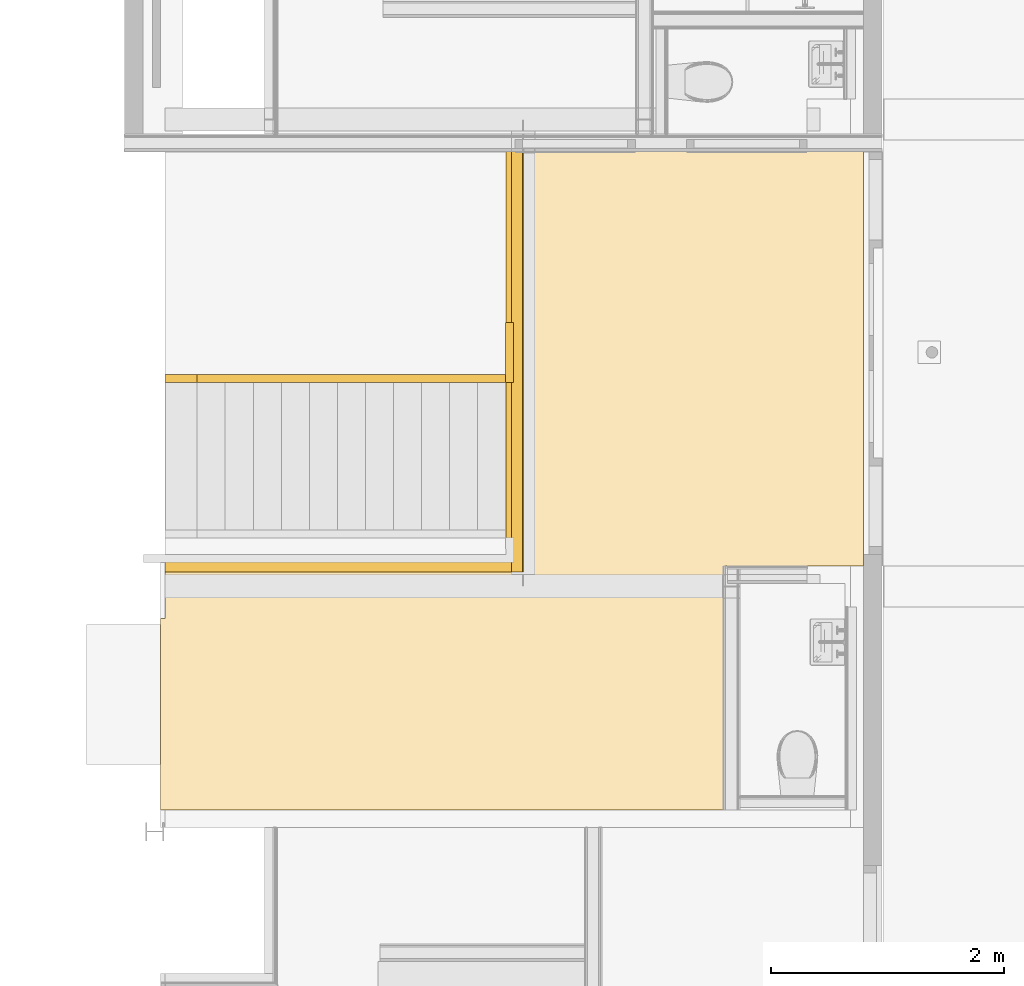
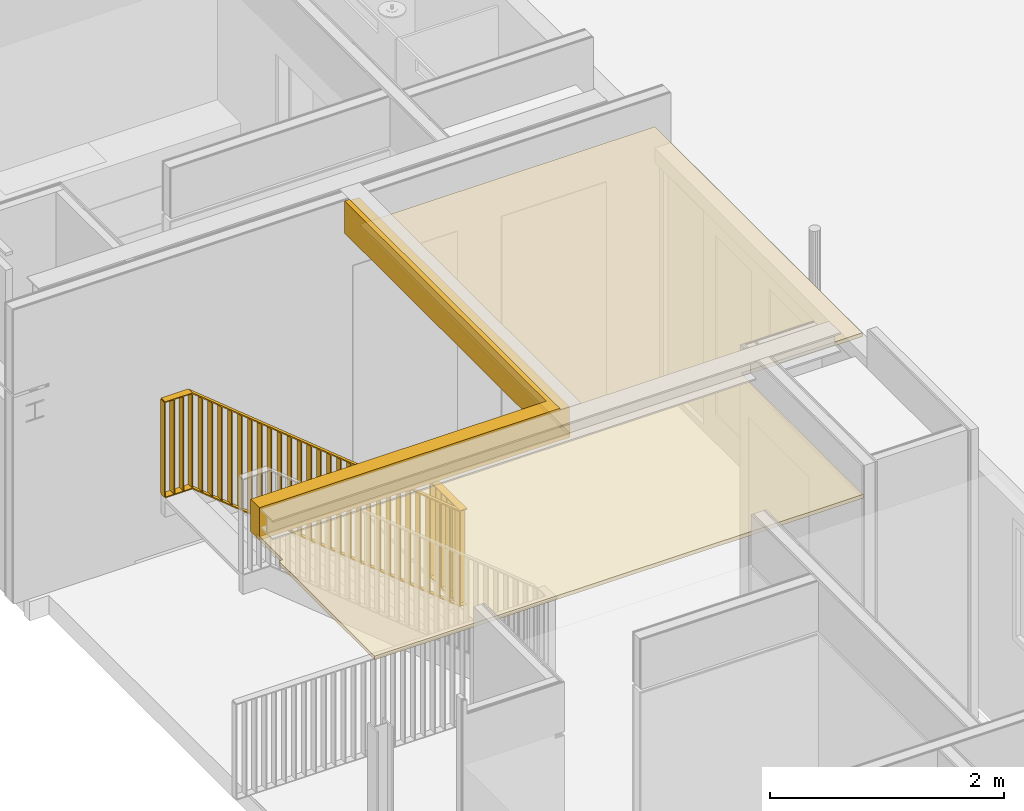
# One storey, part 24 of 35: 2 coverings, 1 railing.
"""IFC2X3 building model written with IfcOpenShell, lengths in millimetres."""

from ifc_helpers import new_model, entity, si_unit, converted_unit, derived_unit, money_unit, direction, frame, origin_with_axes, place, context, subcontext, project, spatial, faceted_brep, material, material_list, type_object, element, save


model = new_model("IFC2X3")

# Units and contexts
model_context = context("Model", 3, precision=0.01, world=origin_with_axes(), true_north=direction((0.0, 1.0)))
body_context = subcontext(model_context, "Body", "Model", "MODEL_VIEW")
ifc_project = project(units=[si_unit("LENGTHUNIT", "METRE", prefix="MILLI"), si_unit("AREAUNIT", "SQUARE_METRE"), si_unit("VOLUMEUNIT", "CUBIC_METRE"), converted_unit("PLANEANGLEUNIT", "DEGREE", entity("IfcPlaneAngleMeasure", 0.0174532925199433), si_unit("PLANEANGLEUNIT", "RADIAN"), dimensions=[0, 0, 0, 0, 0, 0, 0]), money_unit("EUR"), converted_unit("TIMEUNIT", "Year", entity("IfcTimeMeasure", 31557600.0), si_unit("TIMEUNIT", "SECOND"), dimensions=[0, 0, 1, 0, 0, 0, 0]), si_unit("MASSUNIT", "GRAM", prefix="KILO"), si_unit("THERMODYNAMICTEMPERATUREUNIT", "DEGREE_CELSIUS"), si_unit("LUMINOUSINTENSITYUNIT", "LUMEN"), si_unit("ENERGYUNIT", "JOULE", prefix="MEGA"), derived_unit("THERMALCONDUCTANCEUNIT", [(si_unit("POWERUNIT", "WATT"), 1), (si_unit("LENGTHUNIT", "METRE"), -1), (si_unit("THERMODYNAMICTEMPERATUREUNIT", "KELVIN"), -1)]), derived_unit("SPECIFICHEATCAPACITYUNIT", [(si_unit("ENERGYUNIT", "JOULE"), 1), (si_unit("MASSUNIT", "GRAM", prefix="KILO"), -1), (si_unit("THERMODYNAMICTEMPERATUREUNIT", "KELVIN"), -1)]), derived_unit("MASSDENSITYUNIT", [(si_unit("MASSUNIT", "GRAM", prefix="KILO"), 1), (si_unit("VOLUMEUNIT", "CUBIC_METRE"), -1)])], contexts=[model_context])

# Site, building, storey
site_placement = place(None, origin_with_axes())
site = spatial("IfcSite", under=ifc_project, at=site_placement, Name="<site naam>", CompositionType="ELEMENT")
building_placement = place(site_placement, origin_with_axes())
building = spatial("IfcBuilding", under=site, at=building_placement, Name="<Naam gebouw>", CompositionType="ELEMENT")
storey_placement = place(building_placement, frame((0.0, 0.0, 6345.0), z_axis=(0.0, 0.0, 1.0), x_axis=(1.0, 0.0, 0.0)))
storey = spatial("IfcBuildingStorey", under=building, at=storey_placement, Name="02 2e tussenverdieping", CompositionType="ELEMENT", Elevation=6345.0)

# Covering
ifc_material_1 = material(Name="systeemplafond 600*600")
covering_type_1 = type_object("IfcCoveringType", Name="PA-01c 40", PredefinedType="CEILING")
covering_1_placement = place(storey_placement, frame((52175.28548778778, 8175.071298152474, 2700.0), z_axis=(0.0, 0.0, 1.0), x_axis=(1.0, 0.0, 0.0)))
element("IfcCovering", 1, at=covering_1_placement, inside=storey, type_object=covering_type_1, material=ifc_material_1, Name="45_Vloer_PA-01c", PredefinedType="CEILING", context=body_context, shape_type="Brep", body=[
    faceted_brep([(-39.87681422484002, -2090.07150375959, 40.00000000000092), (4786.997353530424, -2090.071239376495, 40.00000000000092), (4786.997353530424, -0.07132761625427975, 40.00000000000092), (4882.497392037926, -0.07132761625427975, 40.00000000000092), (5982.497491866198, -0.07132761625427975, 40.00000000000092), (5982.497491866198, 3549.928741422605, 40.00000000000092), (3069.319793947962, 3549.928741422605, 40.00000000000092), (3069.319793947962, -50.08520725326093, 40.00000000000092), (0.1430896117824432, -50.08520725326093, 40.00000000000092), (0.0, 0.0, 40.00000000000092), (-0.2854877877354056, -450.0712981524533, 40.00000000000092), (-39.27123645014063, -450.0569026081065, 40.00000000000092), (-39.87681422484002, -2090.07150375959, 0.0), (4786.997353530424, -2090.071239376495, 0.0), (4786.997353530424, -0.07132761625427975, 0.0), (4882.497392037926, -0.07132761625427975, 0.0), (5982.497491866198, -0.07132761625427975, 0.0), (5982.497491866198, 3549.928741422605, 0.0), (3069.319793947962, 3549.928741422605, 0.0), (3069.319793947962, -50.08520725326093, 0.0), (0.1430896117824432, -50.08520725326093, 0.0), (0.0, 0.0, 0.0), (-0.2854877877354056, -450.0712981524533, 0.0), (-39.27123645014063, -450.0569026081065, 0.0)], [[[0, 1, 2, 3, 4, 5, 6, 7, 8, 9, 10, 11]], [[12, 13, 1, 0]], [[14, 2, 1, 13]], [[15, 3, 2, 14]], [[4, 3, 15, 16]], [[5, 4, 16, 17]], [[6, 5, 17, 18]], [[7, 6, 18, 19]], [[8, 7, 19, 20]], [[9, 8, 20, 21]], [[10, 9, 21, 22]], [[11, 10, 22, 23]], [[0, 11, 23, 12]], [[15, 14, 13, 12, 23, 22, 21, 20, 19, 18, 17, 16]]]),
])

# Railing
ifc_material_2 = material(Name="staal balustrade")
ifc_material_list = material_list([ifc_material_2, ifc_material_2, ifc_material_2, ifc_material_2, ifc_material_2, ifc_material_2, ifc_material_2, ifc_material_2, ifc_material_2, ifc_material_2, ifc_material_2, ifc_material_2, ifc_material_2, ifc_material_2, ifc_material_2, ifc_material_2, ifc_material_2, ifc_material_2, ifc_material_2, ifc_material_2, ifc_material_2, ifc_material_2, ifc_material_2, ifc_material_2, ifc_material_2, ifc_material_2, ifc_material_2, ifc_material_2, ifc_material_2, ifc_material_2, ifc_material_2, ifc_material_2, ifc_material_2, ifc_material_2, ifc_material_2, ifc_material_2, ifc_material_2, ifc_material_2, ifc_material_2, ifc_material_2, ifc_material_2, ifc_material_2, ifc_material_2, ifc_material_2, ifc_material_2])
railing_type = type_object("IfcRailingType", Name="Railing Type", PredefinedType="NOTDEFINED")
railing_placement = place(storey_placement, frame((54815.00000000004, 9815.000000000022, -8.253160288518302e-05), z_axis=(0.0, 0.0, 1.0), x_axis=(1.0, 0.0, 0.0)))
element("IfcRailing", 2, at=railing_placement, inside=storey, type_object=railing_type, material=ifc_material_list, Name="34_Reling_", PredefinedType="NOTDEFINED", context=body_context, shape_type="Brep", body=[
    faceted_brep([(274.601120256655, 434.9999999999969, 14.99999999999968), (344.6011202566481, 434.9999999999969, 14.99999999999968), (344.6011202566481, 434.9999999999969, 994.9999999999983), (274.601120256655, 434.9999999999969, 994.9999999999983), (274.601120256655, 444.9999999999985, 14.99999999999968), (344.6011202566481, 444.9999999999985, 14.99999999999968), (344.6011202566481, 444.9999999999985, 994.9999999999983), (274.601120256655, 444.9999999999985, 994.9999999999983)], [[[0, 1, 2, 3]], [[0, 4, 5, 1]], [[1, 5, 6, 2]], [[3, 2, 6, 7]], [[4, 0, 3, 7]], [[5, 4, 7, 6]]]),
    faceted_brep([(274.601120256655, -40.00000000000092, 14.99999999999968), (344.6011202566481, -40.00000000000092, 14.99999999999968), (344.6011202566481, -40.00000000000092, 994.9999999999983), (274.601120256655, -40.00000000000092, 994.9999999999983), (274.601120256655, -29.99999999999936, 14.99999999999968), (344.6011202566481, -29.99999999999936, 14.99999999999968), (344.6011202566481, -29.99999999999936, 994.9999999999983), (274.601120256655, -29.99999999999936, 994.9999999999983)], [[[0, 1, 2, 3]], [[0, 4, 5, 1]], [[1, 5, 6, 2]], [[3, 2, 6, 7]], [[4, 0, 3, 7]], [[5, 4, 7, 6]]]),
    faceted_brep([(269.6011202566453, 0.0, 14.99999999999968), (269.6011202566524, -70.00000000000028, 14.99999999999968), (269.6011202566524, -70.00000000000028, 995.0000000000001), (269.6011202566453, 0.0, 995.0000000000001), (279.6011202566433, 0.0, 14.99999999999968), (279.6011202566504, -70.00000000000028, 14.99999999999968), (279.6011202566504, -70.00000000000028, 995.0000000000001), (279.6011202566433, 0.0, 995.0000000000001)], [[[0, 1, 2, 3]], [[0, 4, 5, 1]], [[1, 5, 6, 2]], [[3, 2, 6, 7]], [[4, 0, 3, 7]], [[5, 4, 7, 6]]]),
    faceted_brep([(-2370.398879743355, 0.0, 2170.000000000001), (-2370.398879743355, -70.00000000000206, 2170.000000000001), (-2370.398879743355, -70.00000000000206, 3150.000000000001), (-2370.398879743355, 0.0, 3150.000000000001), (-2360.39887974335, 0.0, 2170.000000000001), (-2360.39887974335, -70.00000000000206, 2170.000000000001), (-2360.39887974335, -70.00000000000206, 3150.000000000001), (-2360.39887974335, 0.0, 3150.000000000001)], [[[0, 1, 2, 3]], [[0, 4, 5, 1]], [[1, 5, 6, 2]], [[3, 2, 6, 7]], [[4, 0, 3, 7]], [[5, 4, 7, 6]]]),
    faceted_brep([(-2640.398879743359, 0.0, 2170.000000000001), (-2640.398879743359, -70.00000000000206, 2170.000000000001), (-2640.398879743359, -70.00000000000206, 3150.0), (-2640.398879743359, 0.0, 3150.0), (-2630.398879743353, 0.0, 2170.000000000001), (-2630.398879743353, -70.00000000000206, 2170.000000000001), (-2630.398879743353, -70.00000000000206, 3150.0), (-2630.398879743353, 0.0, 3150.0)], [[[0, 1, 2, 3]], [[0, 4, 5, 1]], [[1, 5, 6, 2]], [[3, 2, 6, 7]], [[4, 0, 3, 7]], [[5, 4, 7, 6]]]),
    faceted_brep([(274.601120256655, 439.9999999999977, 1005.0), (274.601120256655, 439.9999999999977, 995.0000000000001), (274.601120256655, 0.0, 995.0000000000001), (274.601120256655, 0.0, 1005.0), (344.6011202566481, 439.9999999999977, 1005.0), (344.6011202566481, 439.9999999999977, 995.0000000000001), (344.6011202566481, -69.99999999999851, 995.0000000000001), (344.6011202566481, -69.99999999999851, 1005.0)], [[[0, 1, 2, 3]], [[0, 4, 5, 1]], [[1, 5, 6, 2]], [[3, 2, 6, 7]], [[4, 0, 3, 7]], [[5, 4, 7, 6]]]),
    faceted_brep([(274.601120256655, 439.9999999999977, 9.999999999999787), (274.601120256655, 439.9999999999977, 0.0), (274.601120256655, 0.0, 0.0), (274.601120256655, 0.0, 9.999999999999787), (344.6011202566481, 439.9999999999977, 9.999999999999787), (344.6011202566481, 439.9999999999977, 0.0), (344.6011202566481, -69.99999999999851, 0.0), (344.6011202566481, -69.99999999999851, 9.999999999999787)], [[[0, 1, 2, 3]], [[0, 4, 5, 1]], [[1, 5, 6, 2]], [[3, 2, 6, 7]], [[4, 0, 3, 7]], [[5, 4, 7, 6]]]),
    faceted_brep([(274.601120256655, 339.9999999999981, 14.99999999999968), (344.6011202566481, 339.9999999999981, 14.99999999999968), (344.6011202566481, 339.9999999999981, 995.0000000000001), (274.601120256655, 339.9999999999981, 995.0000000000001), (274.601120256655, 349.9999999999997, 14.99999999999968), (344.6011202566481, 349.9999999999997, 14.99999999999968), (344.6011202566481, 349.9999999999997, 995.0000000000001), (274.601120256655, 349.9999999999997, 995.0000000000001)], [[[0, 1, 2, 3]], [[0, 4, 5, 1]], [[1, 5, 6, 2]], [[3, 2, 6, 7]], [[4, 0, 3, 7]], [[5, 4, 7, 6]]]),
    faceted_brep([(274.601120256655, 244.9999999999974, 14.99999999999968), (344.6011202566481, 244.9999999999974, 14.99999999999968), (344.6011202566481, 244.9999999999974, 995.0000000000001), (274.601120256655, 244.9999999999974, 995.0000000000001), (274.601120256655, 254.999999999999, 14.99999999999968), (344.6011202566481, 254.999999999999, 14.99999999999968), (344.6011202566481, 254.999999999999, 995.0000000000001), (274.601120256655, 254.999999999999, 995.0000000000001)], [[[0, 1, 2, 3]], [[0, 4, 5, 1]], [[1, 5, 6, 2]], [[3, 2, 6, 7]], [[4, 0, 3, 7]], [[5, 4, 7, 6]]]),
    faceted_brep([(274.601120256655, 149.9999999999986, 14.99999999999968), (344.6011202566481, 149.9999999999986, 14.99999999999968), (344.6011202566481, 149.9999999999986, 995.0000000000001), (274.601120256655, 149.9999999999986, 995.0000000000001), (274.601120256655, 160.0000000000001, 14.99999999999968), (344.6011202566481, 160.0000000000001, 14.99999999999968), (344.6011202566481, 160.0000000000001, 995.0000000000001), (274.601120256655, 160.0000000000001, 995.0000000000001)], [[[0, 1, 2, 3]], [[0, 4, 5, 1]], [[1, 5, 6, 2]], [[3, 2, 6, 7]], [[4, 0, 3, 7]], [[5, 4, 7, 6]]]),
    faceted_brep([(274.601120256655, 54.99999999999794, 14.99999999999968), (344.6011202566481, 54.99999999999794, 14.99999999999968), (344.6011202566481, 54.99999999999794, 995.0000000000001), (274.601120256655, 54.99999999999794, 995.0000000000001), (274.601120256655, 64.9999999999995, 14.99999999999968), (344.6011202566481, 64.9999999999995, 14.99999999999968), (344.6011202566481, 64.9999999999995, 995.0000000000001), (274.601120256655, 64.9999999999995, 995.0000000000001)], [[[0, 1, 2, 3]], [[0, 4, 5, 1]], [[1, 5, 6, 2]], [[3, 2, 6, 7]], [[4, 0, 3, 7]], [[5, 4, 7, 6]]]),
    faceted_brep([(271.037886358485, 0.0, 995.0000000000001), (271.037886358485, -70.00000000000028, 995.0000000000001), (274.6011202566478, -70.00000000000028, 1005.0), (274.601120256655, 0.0, 1005.0), (274.601120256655, 0.0, 995.0000000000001), (344.6011202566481, -69.99999999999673, 995.0000000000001), (344.6011202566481, -69.99999999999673, 1005.0)], [[[0, 1, 2, 3]], [[1, 0, 4, 5]], [[2, 1, 5, 6]], [[3, 2, 6]], [[0, 3, 4]], [[5, 4, 3, 6]]]),
    faceted_brep([(274.6011202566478, -70.00000000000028, 0.0), (274.601120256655, 0.0, 0.0), (344.6011202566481, -69.99999999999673, 0.0), (274.6011202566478, -70.00000000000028, 9.999999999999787), (274.601120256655, 0.0, 9.999999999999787), (344.6011202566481, -69.99999999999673, 9.999999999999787)], [[[0, 1, 2]], [[1, 0, 3, 4]], [[1, 4, 5, 2]], [[3, 0, 2, 5]], [[5, 4, 3]]]),
    faceted_brep([(274.6011202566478, 0.0, 1005.0), (271.037886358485, 0.0, 995.0000000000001), (-2368.962113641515, 0.0, 3150.0), (-2365.398879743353, 0.0, 3159.999999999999), (274.6011202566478, -70.00000000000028, 1005.0), (271.037886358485, -70.00000000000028, 995.0000000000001), (-2368.962113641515, -70.00000000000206, 3150.0), (-2365.398879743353, -70.00000000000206, 3159.999999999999)], [[[0, 1, 2, 3]], [[0, 4, 5, 1]], [[1, 5, 6, 2]], [[3, 2, 6, 7]], [[4, 0, 3, 7]], [[5, 4, 7, 6]]]),
    faceted_brep([(274.6011202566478, 0.0, 11.45431232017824), (274.6011202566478, 0.0, -1.454312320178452), (-2365.398879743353, 0.0, 2153.545687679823), (-2365.398879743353, 0.0, 2166.454312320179), (274.6011202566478, -70.00000000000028, 11.45431232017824), (274.6011202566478, -70.00000000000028, -1.454312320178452), (-2365.398879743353, -70.00000000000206, 2153.545687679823), (-2365.398879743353, -70.00000000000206, 2166.454312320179)], [[[0, 1, 2, 3]], [[0, 4, 5, 1]], [[1, 5, 6, 2]], [[3, 2, 6, 7]], [[4, 0, 3, 7]], [[5, 4, 7, 6]]]),
    faceted_brep([(171.8233424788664, 0.0, 98.89625420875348), (171.8233424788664, -70.00000000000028, 98.89625420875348), (171.8233424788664, -70.00000000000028, 1078.896254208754), (171.8233424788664, 0.0, 1078.896254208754), (181.8233424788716, 0.0, 90.733375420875), (181.8233424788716, -70.00000000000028, 90.733375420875), (181.8233424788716, -70.00000000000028, 1070.733375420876), (181.8233424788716, 0.0, 1070.733375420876)], [[[0, 1, 2, 3]], [[0, 4, 5, 1]], [[1, 5, 6, 2]], [[3, 2, 6, 7]], [[4, 0, 3, 7]], [[5, 4, 7, 6]]]),
    faceted_brep([(74.04556470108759, 0.0, 178.7110690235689), (74.04556470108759, -70.00000000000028, 178.7110690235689), (74.04556470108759, -70.00000000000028, 1158.711069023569), (74.04556470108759, 0.0, 1158.711069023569), (84.0455647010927, 0.0, 170.5481902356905), (84.0455647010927, -70.00000000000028, 170.5481902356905), (84.0455647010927, -70.00000000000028, 1150.548190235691), (84.0455647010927, 0.0, 1150.548190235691)], [[[0, 1, 2, 3]], [[0, 4, 5, 1]], [[1, 5, 6, 2]], [[3, 2, 6, 7]], [[4, 0, 3, 7]], [[5, 4, 7, 6]]]),
    faceted_brep([(-23.73221307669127, 0.0, 258.5258838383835), (-23.73221307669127, -70.00000000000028, 258.5258838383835), (-23.73221307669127, -70.00000000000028, 1238.525883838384), (-23.73221307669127, 0.0, 1238.525883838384), (-13.73221307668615, 0.0, 250.363005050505), (-13.73221307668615, -70.00000000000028, 250.363005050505), (-13.73221307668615, -70.00000000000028, 1230.363005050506), (-13.73221307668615, 0.0, 1230.363005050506)], [[[0, 1, 2, 3]], [[0, 4, 5, 1]], [[1, 5, 6, 2]], [[3, 2, 6, 7]], [[4, 0, 3, 7]], [[5, 4, 7, 6]]]),
    faceted_brep([(-121.509990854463, 0.0, 338.340698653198), (-121.509990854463, -70.00000000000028, 338.340698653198), (-121.509990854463, -70.00000000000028, 1318.340698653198), (-121.509990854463, 0.0, 1318.340698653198), (-111.5099908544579, 0.0, 330.1778198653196), (-111.5099908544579, -70.00000000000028, 330.1778198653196), (-111.5099908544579, -70.00000000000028, 1310.17781986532), (-111.5099908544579, 0.0, 1310.17781986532)], [[[0, 1, 2, 3]], [[0, 4, 5, 1]], [[1, 5, 6, 2]], [[3, 2, 6, 7]], [[4, 0, 3, 7]], [[5, 4, 7, 6]]]),
    faceted_brep([(-219.2877686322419, 0.0, 418.1555134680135), (-219.2877686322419, -70.00000000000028, 418.1555134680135), (-219.2877686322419, -70.00000000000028, 1398.155513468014), (-219.2877686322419, 0.0, 1398.155513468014), (-209.2877686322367, 0.0, 409.992634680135), (-209.2877686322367, -70.00000000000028, 409.992634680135), (-209.2877686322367, -70.00000000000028, 1389.992634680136), (-209.2877686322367, 0.0, 1389.992634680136)], [[[0, 1, 2, 3]], [[0, 4, 5, 1]], [[1, 5, 6, 2]], [[3, 2, 6, 7]], [[4, 0, 3, 7]], [[5, 4, 7, 6]]]),
    faceted_brep([(-317.0655464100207, 0.0, 497.9703282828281), (-317.0655464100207, -70.00000000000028, 497.9703282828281), (-317.0655464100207, -70.00000000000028, 1477.970328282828), (-317.0655464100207, 0.0, 1477.970328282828), (-307.0655464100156, 0.0, 489.8074494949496), (-307.0655464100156, -70.00000000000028, 489.8074494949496), (-307.0655464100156, -70.00000000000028, 1469.80744949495), (-307.0655464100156, 0.0, 1469.80744949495)], [[[0, 1, 2, 3]], [[0, 4, 5, 1]], [[1, 5, 6, 2]], [[3, 2, 6, 7]], [[4, 0, 3, 7]], [[5, 4, 7, 6]]]),
    faceted_brep([(-414.8433241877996, 0.0, 577.7851430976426), (-414.8433241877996, -70.00000000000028, 577.7851430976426), (-414.8433241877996, -70.00000000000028, 1557.785143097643), (-414.8433241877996, 0.0, 1557.785143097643), (-404.8433241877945, 0.0, 569.6222643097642), (-404.8433241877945, -70.00000000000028, 569.6222643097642), (-404.8433241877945, -70.00000000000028, 1549.622264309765), (-404.8433241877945, 0.0, 1549.622264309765)], [[[0, 1, 2, 3]], [[0, 4, 5, 1]], [[1, 5, 6, 2]], [[3, 2, 6, 7]], [[4, 0, 3, 7]], [[5, 4, 7, 6]]]),
    faceted_brep([(-512.6211019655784, 0.0, 657.5999579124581), (-512.6211019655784, -70.00000000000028, 657.5999579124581), (-512.6211019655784, -70.00000000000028, 1637.599957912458), (-512.6211019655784, 0.0, 1637.599957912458), (-502.6211019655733, 0.0, 649.4370791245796), (-502.6211019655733, -70.00000000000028, 649.4370791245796), (-502.6211019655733, -70.00000000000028, 1629.43707912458), (-502.6211019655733, 0.0, 1629.43707912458)], [[[0, 1, 2, 3]], [[0, 4, 5, 1]], [[1, 5, 6, 2]], [[3, 2, 6, 7]], [[4, 0, 3, 7]], [[5, 4, 7, 6]]]),
    faceted_brep([(-610.3988797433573, 0.0, 737.4147727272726), (-610.3988797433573, -70.00000000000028, 737.4147727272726), (-610.3988797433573, -70.00000000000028, 1717.414772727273), (-610.3988797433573, 0.0, 1717.414772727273), (-600.3988797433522, 0.0, 729.2518939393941), (-600.3988797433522, -70.00000000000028, 729.2518939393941), (-600.3988797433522, -70.00000000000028, 1709.251893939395), (-600.3988797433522, 0.0, 1709.251893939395)], [[[0, 1, 2, 3]], [[0, 4, 5, 1]], [[1, 5, 6, 2]], [[3, 2, 6, 7]], [[4, 0, 3, 7]], [[5, 4, 7, 6]]]),
    faceted_brep([(-708.1766575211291, 0.0, 817.2295875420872), (-708.1766575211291, -70.00000000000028, 817.2295875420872), (-708.1766575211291, -70.00000000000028, 1797.229587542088), (-708.1766575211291, 0.0, 1797.229587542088), (-698.1766575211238, 0.0, 809.0667087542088), (-698.1766575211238, -70.00000000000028, 809.0667087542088), (-698.1766575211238, -70.00000000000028, 1789.066708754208), (-698.1766575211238, 0.0, 1789.066708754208)], [[[0, 1, 2, 3]], [[0, 4, 5, 1]], [[1, 5, 6, 2]], [[3, 2, 6, 7]], [[4, 0, 3, 7]], [[5, 4, 7, 6]]]),
    faceted_brep([(-805.9544352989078, 0.0, 897.0444023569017), (-805.9544352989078, -70.00000000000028, 897.0444023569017), (-805.9544352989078, -70.00000000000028, 1877.044402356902), (-805.9544352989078, 0.0, 1877.044402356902), (-795.9544352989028, 0.0, 888.8815235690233), (-795.9544352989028, -70.00000000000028, 888.8815235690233), (-795.9544352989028, -70.00000000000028, 1868.881523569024), (-795.9544352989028, 0.0, 1868.881523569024)], [[[0, 1, 2, 3]], [[0, 4, 5, 1]], [[1, 5, 6, 2]], [[3, 2, 6, 7]], [[4, 0, 3, 7]], [[5, 4, 7, 6]]]),
    faceted_brep([(-903.7322130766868, 0.0, 976.8592171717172), (-903.7322130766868, -70.00000000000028, 976.8592171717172), (-903.7322130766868, -70.00000000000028, 1956.859217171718), (-903.7322130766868, 0.0, 1956.859217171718), (-893.7322130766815, 0.0, 968.6963383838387), (-893.7322130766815, -70.00000000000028, 968.6963383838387), (-893.7322130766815, -70.00000000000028, 1948.696338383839), (-893.7322130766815, 0.0, 1948.696338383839)], [[[0, 1, 2, 3]], [[0, 4, 5, 1]], [[1, 5, 6, 2]], [[3, 2, 6, 7]], [[4, 0, 3, 7]], [[5, 4, 7, 6]]]),
    faceted_brep([(-1001.509990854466, 0.0, 1056.674031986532), (-1001.509990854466, -70.00000000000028, 1056.674031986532), (-1001.509990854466, -70.00000000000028, 2036.674031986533), (-1001.509990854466, 0.0, 2036.674031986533), (-991.5099908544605, 0.0, 1048.511153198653), (-991.5099908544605, -70.00000000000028, 1048.511153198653), (-991.5099908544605, -70.00000000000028, 2028.511153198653), (-991.5099908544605, 0.0, 2028.511153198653)], [[[0, 1, 2, 3]], [[0, 4, 5, 1]], [[1, 5, 6, 2]], [[3, 2, 6, 7]], [[4, 0, 3, 7]], [[5, 4, 7, 6]]]),
    faceted_brep([(-1099.287768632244, 0.0, 1136.488846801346), (-1099.287768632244, -70.00000000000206, 1136.488846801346), (-1099.287768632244, -70.00000000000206, 2116.488846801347), (-1099.287768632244, 0.0, 2116.488846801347), (-1089.287768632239, 0.0, 1128.325968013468), (-1089.287768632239, -70.00000000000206, 1128.325968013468), (-1089.287768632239, -70.00000000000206, 2108.325968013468), (-1089.287768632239, 0.0, 2108.325968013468)], [[[0, 1, 2, 3]], [[0, 4, 5, 1]], [[1, 5, 6, 2]], [[3, 2, 6, 7]], [[4, 0, 3, 7]], [[5, 4, 7, 6]]]),
    faceted_brep([(-1197.065546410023, 0.0, 1216.303661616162), (-1197.065546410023, -70.00000000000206, 1216.303661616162), (-1197.065546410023, -70.00000000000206, 2196.303661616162), (-1197.065546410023, 0.0, 2196.303661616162), (-1187.065546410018, 0.0, 1208.140782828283), (-1187.065546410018, -70.00000000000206, 1208.140782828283), (-1187.065546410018, -70.00000000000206, 2188.140782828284), (-1187.065546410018, 0.0, 2188.140782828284)], [[[0, 1, 2, 3]], [[0, 4, 5, 1]], [[1, 5, 6, 2]], [[3, 2, 6, 7]], [[4, 0, 3, 7]], [[5, 4, 7, 6]]]),
    faceted_brep([(-1294.843324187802, 0.0, 1296.118476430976), (-1294.843324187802, -70.00000000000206, 1296.118476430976), (-1294.843324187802, -70.00000000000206, 2276.118476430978), (-1294.843324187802, 0.0, 2276.118476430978), (-1284.843324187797, 0.0, 1287.955597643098), (-1284.843324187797, -70.00000000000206, 1287.955597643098), (-1284.843324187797, -70.00000000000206, 2267.955597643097), (-1284.843324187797, 0.0, 2267.955597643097)], [[[0, 1, 2, 3]], [[0, 4, 5, 1]], [[1, 5, 6, 2]], [[3, 2, 6, 7]], [[4, 0, 3, 7]], [[5, 4, 7, 6]]]),
    faceted_brep([(-1392.621101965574, 0.0, 1375.933291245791), (-1392.621101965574, -70.00000000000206, 1375.933291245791), (-1392.621101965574, -70.00000000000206, 2355.933291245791), (-1392.621101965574, 0.0, 2355.933291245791), (-1382.621101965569, 0.0, 1367.770412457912), (-1382.621101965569, -70.00000000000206, 1367.770412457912), (-1382.621101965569, -70.00000000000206, 2347.770412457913), (-1382.621101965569, 0.0, 2347.770412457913)], [[[0, 1, 2, 3]], [[0, 4, 5, 1]], [[1, 5, 6, 2]], [[3, 2, 6, 7]], [[4, 0, 3, 7]], [[5, 4, 7, 6]]]),
    faceted_brep([(-1490.398879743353, 0.0, 1455.748106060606), (-1490.398879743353, -70.00000000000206, 1455.748106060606), (-1490.398879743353, -70.00000000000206, 2435.748106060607), (-1490.398879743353, 0.0, 2435.748106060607), (-1480.398879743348, 0.0, 1447.585227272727), (-1480.398879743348, -70.00000000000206, 1447.585227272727), (-1480.398879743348, -70.00000000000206, 2427.585227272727), (-1480.398879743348, 0.0, 2427.585227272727)], [[[0, 1, 2, 3]], [[0, 4, 5, 1]], [[1, 5, 6, 2]], [[3, 2, 6, 7]], [[4, 0, 3, 7]], [[5, 4, 7, 6]]]),
    faceted_brep([(-1588.176657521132, 0.0, 1535.562920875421), (-1588.176657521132, -70.00000000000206, 1535.562920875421), (-1588.176657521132, -70.00000000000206, 2515.562920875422), (-1588.176657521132, 0.0, 2515.562920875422), (-1578.176657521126, 0.0, 1527.400042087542), (-1578.176657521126, -70.00000000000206, 1527.400042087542), (-1578.176657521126, -70.00000000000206, 2507.400042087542), (-1578.176657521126, 0.0, 2507.400042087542)], [[[0, 1, 2, 3]], [[0, 4, 5, 1]], [[1, 5, 6, 2]], [[3, 2, 6, 7]], [[4, 0, 3, 7]], [[5, 4, 7, 6]]]),
    faceted_brep([(-1685.954435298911, 0.0, 1615.377735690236), (-1685.954435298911, -70.00000000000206, 1615.377735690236), (-1685.954435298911, -70.00000000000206, 2595.377735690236), (-1685.954435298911, 0.0, 2595.377735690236), (-1675.954435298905, 0.0, 1607.214856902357), (-1675.954435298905, -70.00000000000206, 1607.214856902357), (-1675.954435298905, -70.00000000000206, 2587.214856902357), (-1675.954435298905, 0.0, 2587.214856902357)], [[[0, 1, 2, 3]], [[0, 4, 5, 1]], [[1, 5, 6, 2]], [[3, 2, 6, 7]], [[4, 0, 3, 7]], [[5, 4, 7, 6]]]),
    faceted_brep([(-1783.732213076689, 0.0, 1695.192550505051), (-1783.732213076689, -70.00000000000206, 1695.192550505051), (-1783.732213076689, -70.00000000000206, 2675.192550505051), (-1783.732213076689, 0.0, 2675.192550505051), (-1773.732213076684, 0.0, 1687.029671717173), (-1773.732213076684, -70.00000000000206, 1687.029671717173), (-1773.732213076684, -70.00000000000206, 2667.029671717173), (-1773.732213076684, 0.0, 2667.029671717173)], [[[0, 1, 2, 3]], [[0, 4, 5, 1]], [[1, 5, 6, 2]], [[3, 2, 6, 7]], [[4, 0, 3, 7]], [[5, 4, 7, 6]]]),
    faceted_brep([(-1881.509990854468, 0.0, 1775.007365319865), (-1881.509990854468, -70.00000000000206, 1775.007365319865), (-1881.509990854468, -70.00000000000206, 2755.007365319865), (-1881.509990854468, 0.0, 2755.007365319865), (-1871.509990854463, 0.0, 1766.844486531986), (-1871.509990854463, -70.00000000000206, 1766.844486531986), (-1871.509990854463, -70.00000000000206, 2746.844486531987), (-1871.509990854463, 0.0, 2746.844486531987)], [[[0, 1, 2, 3]], [[0, 4, 5, 1]], [[1, 5, 6, 2]], [[3, 2, 6, 7]], [[4, 0, 3, 7]], [[5, 4, 7, 6]]]),
    faceted_brep([(-1979.287768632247, 0.0, 1854.82218013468), (-1979.287768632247, -70.00000000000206, 1854.82218013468), (-1979.287768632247, -70.00000000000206, 2834.82218013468), (-1979.287768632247, 0.0, 2834.82218013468), (-1969.287768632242, 0.0, 1846.659301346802), (-1969.287768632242, -70.00000000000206, 1846.659301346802), (-1969.287768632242, -70.00000000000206, 2826.659301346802), (-1969.287768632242, 0.0, 2826.659301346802)], [[[0, 1, 2, 3]], [[0, 4, 5, 1]], [[1, 5, 6, 2]], [[3, 2, 6, 7]], [[4, 0, 3, 7]], [[5, 4, 7, 6]]]),
    faceted_brep([(-2077.065546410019, 0.0, 1934.636994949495), (-2077.065546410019, -70.00000000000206, 1934.636994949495), (-2077.065546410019, -70.00000000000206, 2914.636994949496), (-2077.065546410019, 0.0, 2914.636994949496), (-2067.065546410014, 0.0, 1926.474116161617), (-2067.065546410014, -70.00000000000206, 1926.474116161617), (-2067.065546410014, -70.00000000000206, 2906.474116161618), (-2067.065546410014, 0.0, 2906.474116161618)], [[[0, 1, 2, 3]], [[0, 4, 5, 1]], [[1, 5, 6, 2]], [[3, 2, 6, 7]], [[4, 0, 3, 7]], [[5, 4, 7, 6]]]),
    faceted_brep([(-2174.843324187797, 0.0, 2014.451809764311), (-2174.843324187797, -70.00000000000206, 2014.451809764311), (-2174.843324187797, -70.00000000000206, 2994.451809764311), (-2174.843324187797, 0.0, 2994.451809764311), (-2164.843324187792, 0.0, 2006.288930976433), (-2164.843324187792, -70.00000000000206, 2006.288930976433), (-2164.843324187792, -70.00000000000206, 2986.288930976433), (-2164.843324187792, 0.0, 2986.288930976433)], [[[0, 1, 2, 3]], [[0, 4, 5, 1]], [[1, 5, 6, 2]], [[3, 2, 6, 7]], [[4, 0, 3, 7]], [[5, 4, 7, 6]]]),
    faceted_brep([(-2272.621101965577, 0.0, 2094.266624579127), (-2272.621101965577, -70.00000000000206, 2094.266624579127), (-2272.621101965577, -70.00000000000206, 3074.266624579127), (-2272.621101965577, 0.0, 3074.266624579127), (-2262.621101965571, 0.0, 2086.103745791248), (-2262.621101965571, -70.00000000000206, 2086.103745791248), (-2262.621101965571, -70.00000000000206, 3066.103745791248), (-2262.621101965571, 0.0, 3066.103745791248)], [[[0, 1, 2, 3]], [[0, 4, 5, 1]], [[1, 5, 6, 2]], [[3, 2, 6, 7]], [[4, 0, 3, 7]], [[5, 4, 7, 6]]]),
    faceted_brep([(-2365.398879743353, 0.0, 3159.999999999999), (-2368.962113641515, 0.0, 3150.0), (-2635.398879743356, 0.0, 3150.0), (-2635.398879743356, 0.0, 3159.999999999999), (-2365.398879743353, -70.00000000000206, 3159.999999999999), (-2368.962113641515, -70.00000000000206, 3150.0), (-2635.398879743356, -70.00000000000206, 3150.0), (-2635.398879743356, -70.00000000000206, 3159.999999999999)], [[[0, 1, 2, 3]], [[0, 4, 5, 1]], [[1, 5, 6, 2]], [[3, 2, 6, 7]], [[4, 0, 3, 7]], [[5, 4, 7, 6]]]),
    faceted_brep([(-2365.398879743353, 0.0, 2165.000000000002), (-2365.398879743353, 0.0, 2155.0), (-2635.398879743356, 0.0, 2155.0), (-2635.398879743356, 0.0, 2165.000000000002), (-2365.398879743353, -70.00000000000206, 2165.000000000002), (-2365.398879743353, -70.00000000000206, 2155.0), (-2635.398879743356, -70.00000000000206, 2155.0), (-2635.398879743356, -70.00000000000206, 2165.000000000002)], [[[0, 1, 2, 3]], [[0, 4, 5, 1]], [[1, 5, 6, 2]], [[3, 2, 6, 7]], [[4, 0, 3, 7]], [[5, 4, 7, 6]]]),
    faceted_brep([(-2460.398879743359, 0.0, 2170.000000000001), (-2460.398879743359, -70.00000000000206, 2170.000000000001), (-2460.398879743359, -70.00000000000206, 3150.000000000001), (-2460.398879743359, 0.0, 3150.000000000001), (-2450.398879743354, 0.0, 2170.000000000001), (-2450.398879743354, -70.00000000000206, 2170.000000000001), (-2450.398879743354, -70.00000000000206, 3150.000000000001), (-2450.398879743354, 0.0, 3150.000000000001)], [[[0, 1, 2, 3]], [[0, 4, 5, 1]], [[1, 5, 6, 2]], [[3, 2, 6, 7]], [[4, 0, 3, 7]], [[5, 4, 7, 6]]]),
    faceted_brep([(-2550.398879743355, 0.0, 2170.000000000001), (-2550.398879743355, -70.00000000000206, 2170.000000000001), (-2550.398879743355, -70.00000000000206, 3150.000000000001), (-2550.398879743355, 0.0, 3150.000000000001), (-2540.39887974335, 0.0, 2170.000000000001), (-2540.39887974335, -70.00000000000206, 2170.000000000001), (-2540.39887974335, -70.00000000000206, 3150.000000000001), (-2540.39887974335, 0.0, 3150.000000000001)], [[[0, 1, 2, 3]], [[0, 4, 5, 1]], [[1, 5, 6, 2]], [[3, 2, 6, 7]], [[4, 0, 3, 7]], [[5, 4, 7, 6]]]),
])

# Covering
ifc_material_3 = material(Name="koven gips")
covering_type_2 = type_object("IfcCoveringType", Name="koven gips 488", PredefinedType="CEILING")
covering_2_placement = place(storey_placement, frame((55094.62179073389, 11725.00000000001, 3188.000000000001), z_axis=(0.0, 0.0, 1.0), x_axis=(1.0, 0.0, 0.0)))
element("IfcCovering", 3, at=covering_2_placement, inside=storey, type_object=covering_type_2, material=ifc_material_3, Name="45_Vloer_koven", PredefinedType="CEILING", context=body_context, shape_type="Brep", body=[
    faceted_brep([(0.0, 0.0, -150.0000000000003), (47.47656432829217, 0.0, -150.0000000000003), (47.47656448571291, 0.0, -165.0000074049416), (142.9765674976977, 0.0, -165.0000074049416), (142.9765674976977, 0.0, -335.0000010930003), (47.47656448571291, 0.0, -335.0000010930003), (47.47656432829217, 0.0, -350.0000085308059), (149.9779538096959, 0.0, -350.0000078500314), (149.9779538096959, 0.0, -488.0000000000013), (0.0, 0.0, -488.0000000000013), (47.47656432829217, -3600.014403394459, -150.0000000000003), (1.266601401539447e-05, -3449.999999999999, -150.0000000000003), (-2919.621790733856, -3449.999999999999, -150.0000000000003), (-2919.193159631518, -3600.028707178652, -150.0000000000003), (47.47656448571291, -3600.014403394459, -165.0000067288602), (142.9765674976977, -3600.013942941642, -165.0000067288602), (142.9765674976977, -3600.013942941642, -335.0000004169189), (47.47656448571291, -3600.014403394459, -335.0000004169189), (47.47656432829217, -3600.014403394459, -350.0000078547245), (149.9953112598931, -3600.0139091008, -350.0000078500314), (149.9953112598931, -3600.0139091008, -488.0000000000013), (-2919.193159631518, -3600.028707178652, -488.0000000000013), (-2919.621790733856, -3449.999999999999, -488.0000000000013), (1.266601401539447e-05, -3449.999999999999, -488.0000000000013)], [[[0, 1, 2, 3, 4, 5, 6, 7, 8, 9]], [[10, 1, 0, 11, 12, 13]], [[1, 10, 14, 2]], [[14, 15, 3, 2]], [[15, 16, 4, 3]], [[16, 17, 5, 4]], [[17, 18, 6, 5]], [[7, 6, 18, 19]], [[20, 8, 7, 19]], [[21, 22, 23, 9, 8, 20]], [[11, 0, 9, 23]], [[12, 11, 23, 22]], [[13, 12, 22, 21]], [[10, 13, 21, 20, 19, 18, 17, 16, 15, 14]]]),
])

save(model, "model.ifc")
